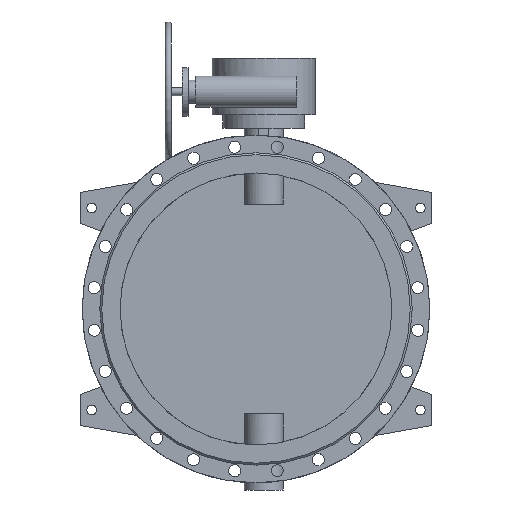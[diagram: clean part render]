
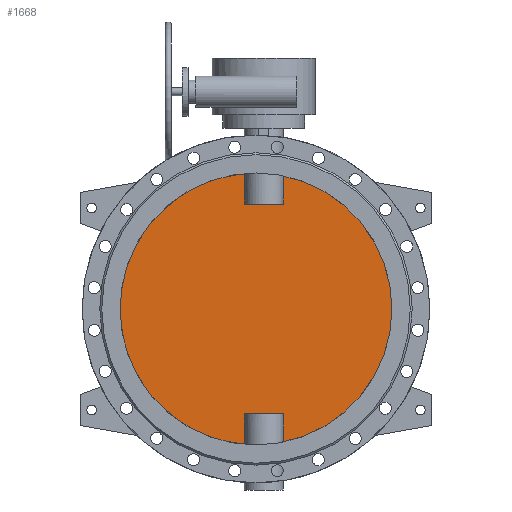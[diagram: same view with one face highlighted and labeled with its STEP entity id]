
A CAD part, front view. The second image highlights one B-rep face of the part: STEP entity #1668.
In plain terms, the highlighted planar face has unit normal (0, -1, 0).
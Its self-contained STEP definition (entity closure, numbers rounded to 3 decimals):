
#1668=ADVANCED_FACE('',(#3510),#3512,.F.);
#3510=FACE_BOUND('',#3511,.T.);
#3511=EDGE_LOOP('',(#4494,#4495,#4496,#4497,#4498,#4499,#4500,#4501));
#3512=PLANE('',#3513);
#3513=AXIS2_PLACEMENT_3D('',#3514,#3515,#3516);
#3514=CARTESIAN_POINT('',(0.,-5.,0.));
#3515=DIRECTION('',(0.,1.,0.));
#3516=DIRECTION('',(1.,0.,0.));
#4494=ORIENTED_EDGE('',*,*,#4954,.T.);
#4495=ORIENTED_EDGE('',*,*,#4966,.T.);
#4496=ORIENTED_EDGE('',*,*,#4967,.T.);
#4497=ORIENTED_EDGE('',*,*,#4968,.T.);
#4498=ORIENTED_EDGE('',*,*,#4956,.T.);
#4499=ORIENTED_EDGE('',*,*,#4969,.T.);
#4500=ORIENTED_EDGE('',*,*,#4970,.T.);
#4501=ORIENTED_EDGE('',*,*,#4971,.T.);
#4954=EDGE_CURVE('',#5728,#5729,#5730,.F.);
#4956=EDGE_CURVE('',#5733,#5731,#5734,.F.);
#4966=EDGE_CURVE('',#5729,#5748,#5749,.T.);
#4967=EDGE_CURVE('',#5748,#5750,#5751,.F.);
#4968=EDGE_CURVE('',#5750,#5733,#5752,.F.);
#4969=EDGE_CURVE('',#5731,#5753,#5754,.F.);
#4970=EDGE_CURVE('',#5753,#5755,#5756,.F.);
#4971=EDGE_CURVE('',#5755,#5728,#5757,.T.);
#5728=VERTEX_POINT('',#10710);
#5729=VERTEX_POINT('',#10711);
#5730=CIRCLE('',#10712,350.);
#5731=VERTEX_POINT('',#10716);
#5733=VERTEX_POINT('',#10758);
#5734=CIRCLE('',#10759,350.);
#5748=VERTEX_POINT('',#10904);
#5749=LINE('',#10905,#10906);
#5750=VERTEX_POINT('',#10908);
#5751=LINE('',#10909,#10910);
#5752=LINE('',#10912,#10913);
#5753=VERTEX_POINT('',#10915);
#5754=LINE('',#10916,#10917);
#5755=VERTEX_POINT('',#10919);
#5756=LINE('',#10920,#10921);
#5757=LINE('',#10923,#10924);
#10710=CARTESIAN_POINT('',(69.749,-5.,-342.98));
#10711=CARTESIAN_POINT('',(69.749,-5.,342.98));
#10712=AXIS2_PLACEMENT_3D('',#10713,#10714,#10715);
#10713=CARTESIAN_POINT('',(0.,-5.,0.));
#10714=DIRECTION('',(0.,1.,0.));
#10715=DIRECTION('',(0.199,0.,0.98));
#10716=CARTESIAN_POINT('',(-29.749,-5.,-348.733));
#10758=CARTESIAN_POINT('',(-29.749,-5.,348.733));
#10759=AXIS2_PLACEMENT_3D('',#10760,#10761,#10762);
#10760=CARTESIAN_POINT('',(0.,-5.,0.));
#10761=DIRECTION('',(0.,1.,0.));
#10762=DIRECTION('',(-0.085,0.,-0.996));
#10904=CARTESIAN_POINT('',(69.749,-5.,270.));
#10905=CARTESIAN_POINT('',(69.749,-5.,342.98));
#10906=VECTOR('',#10907,1.);
#10907=DIRECTION('',(0.,0.,-1.));
#10908=CARTESIAN_POINT('',(-29.749,-5.,270.));
#10909=CARTESIAN_POINT('',(-29.749,-5.,270.));
#10910=VECTOR('',#10911,1.);
#10911=DIRECTION('',(1.,0.,0.));
#10912=CARTESIAN_POINT('',(-29.749,-5.,348.733));
#10913=VECTOR('',#10914,1.);
#10914=DIRECTION('',(0.,0.,-1.));
#10915=CARTESIAN_POINT('',(-29.749,-5.,-270.));
#10916=CARTESIAN_POINT('',(-29.749,-5.,-270.));
#10917=VECTOR('',#10918,1.);
#10918=DIRECTION('',(0.,0.,-1.));
#10919=CARTESIAN_POINT('',(69.749,-5.,-270.));
#10920=CARTESIAN_POINT('',(69.749,-5.,-270.));
#10921=VECTOR('',#10922,1.);
#10922=DIRECTION('',(-1.,0.,0.));
#10923=CARTESIAN_POINT('',(69.749,-5.,-270.));
#10924=VECTOR('',#10925,1.);
#10925=DIRECTION('',(0.,0.,-1.));
